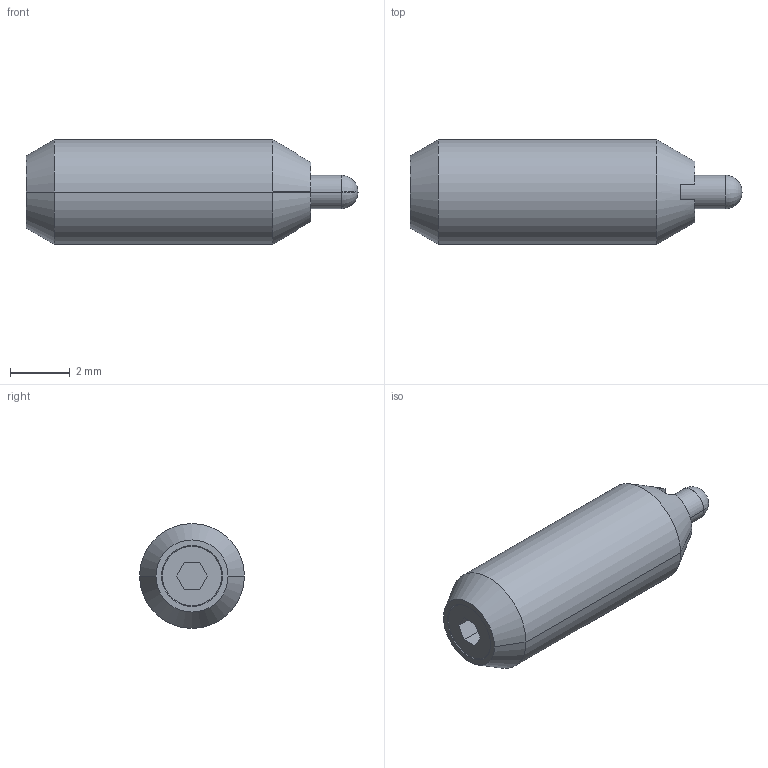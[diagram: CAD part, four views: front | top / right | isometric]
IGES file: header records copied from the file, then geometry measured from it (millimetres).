
Start section:  PTC IGES file: s48a-3d.igs
Global section: file name: s48a-3d.igs; native system: Pro/ENGINEER by Parametric Technology Corporation; preprocessor: 2002350; author: chant; organization: Unknown; date: 061031.114610; units: inch
Bounding box: 11.1 x 3.51 x 3.51 mm (x, y, z)
Surface area: 133.9 mm2 (no closed solid volume)
Topology: 0 solids, 0 shells, 32 faces, 222 edges, 280 vertices
Faces by surface type: bspline 16, revolution 16
